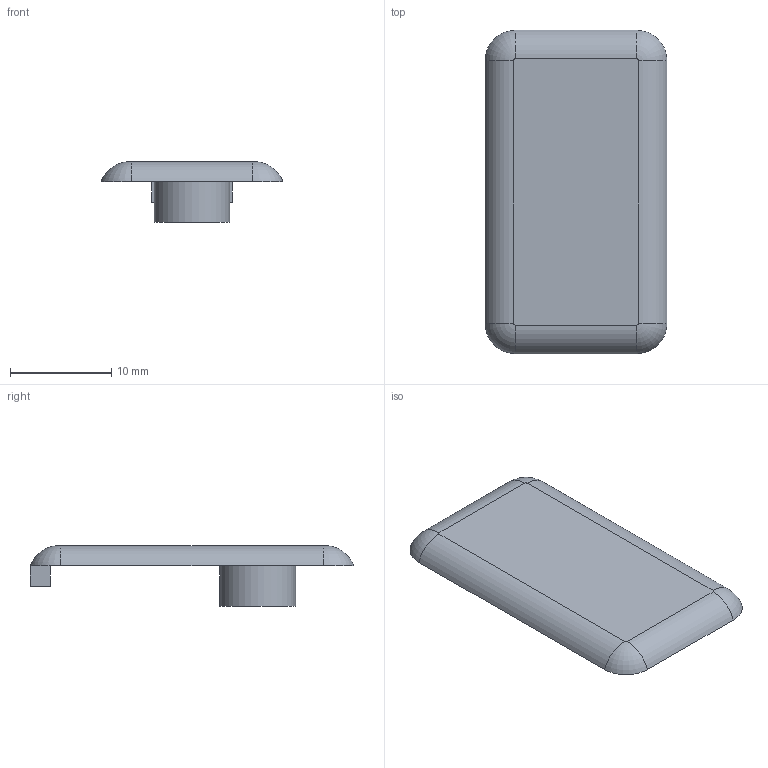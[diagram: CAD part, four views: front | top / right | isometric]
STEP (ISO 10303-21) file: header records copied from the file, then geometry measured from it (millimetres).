
FILE_DESCRIPTION (( 'STEP AP214' ), '1' );
FILE_NAME ('SL01001.step', '2024-12-03T16:29:55', ( '' ), ( '' ), 'SwSTEP 2.0', 'SolidWorks 2023', '' );
FILE_SCHEMA (( 'AUTOMOTIVE_DESIGN' ));
Length unit declared in the file: millimetre
Products named in the file (1): SL01001
Bounding box: 18 x 32 x 6 mm (x, y, z)
Volume: 1127.7 mm3; surface area: 1412.8 mm2
Topology: 1 solids, 1 shells, 19 faces, 44 edges, 29 vertices
Faces by surface type: plane 9, cylinder 6, torus 4
Full cylindrical faces by diameter (mm): 5 x1, 7.5 x1
Entity records: 554 total; most frequent: DIRECTION 101, CARTESIAN_POINT 89, ORIENTED_EDGE 82, EDGE_CURVE 41, AXIS2_PLACEMENT_3D 40, VERTEX_POINT 28, EDGE_LOOP 23, VECTOR 21
